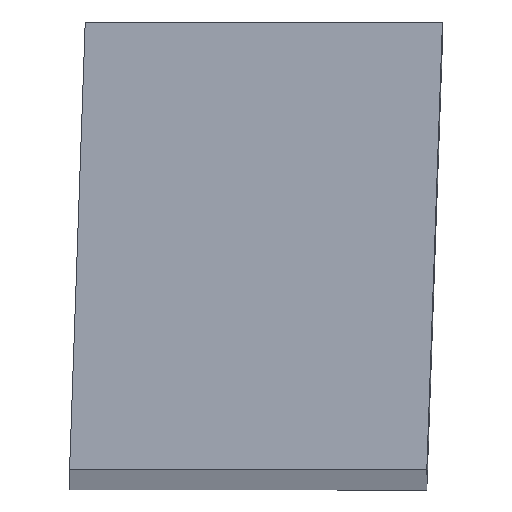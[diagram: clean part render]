
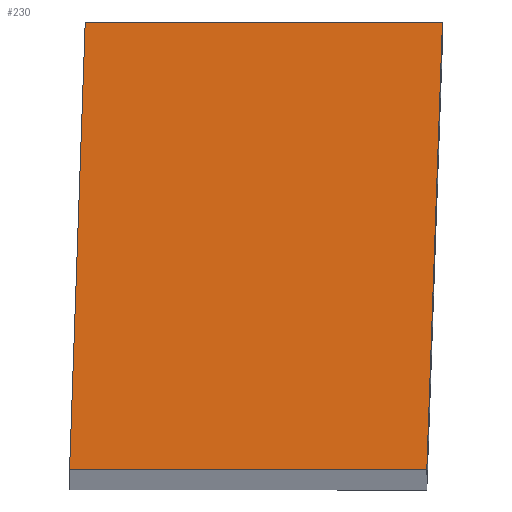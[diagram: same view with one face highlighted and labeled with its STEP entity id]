
A CAD part, top view. The second image highlights one B-rep face of the part: STEP entity #230.
In plain terms, the highlighted planar face has unit normal (0, 0.035, 0.999).
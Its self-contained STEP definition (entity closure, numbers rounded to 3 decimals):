
#24=PLANE('',#269);
#46=FACE_OUTER_BOUND('',#64,.T.);
#64=EDGE_LOOP('',(#209,#210,#211,#212));
#78=LINE('',#386,#98);
#80=LINE('',#390,#100);
#82=LINE('',#394,#102);
#84=LINE('',#397,#104);
#98=VECTOR('',#321,10.);
#100=VECTOR('',#325,10.);
#102=VECTOR('',#329,10.);
#104=VECTOR('',#333,10.);
#125=VERTEX_POINT('',#383);
#126=VERTEX_POINT('',#385);
#127=VERTEX_POINT('',#389);
#128=VERTEX_POINT('',#393);
#150=EDGE_CURVE('',#126,#125,#78,.T.);
#152=EDGE_CURVE('',#127,#126,#80,.T.);
#154=EDGE_CURVE('',#128,#127,#82,.T.);
#156=EDGE_CURVE('',#125,#128,#84,.T.);
#209=ORIENTED_EDGE('',*,*,#156,.T.);
#210=ORIENTED_EDGE('',*,*,#154,.T.);
#211=ORIENTED_EDGE('',*,*,#152,.T.);
#212=ORIENTED_EDGE('',*,*,#150,.T.);
#230=ADVANCED_FACE('',(#46),#24,.T.);
#269=AXIS2_PLACEMENT_3D('',#398,#334,#335);
#321=DIRECTION('',(0.035,0.999,-0.035));
#325=DIRECTION('',(1.,0.,0.));
#329=DIRECTION('',(-0.035,-0.999,0.035));
#333=DIRECTION('',(-1.,0.,0.));
#334=DIRECTION('center_axis',(0.,0.035,0.999));
#335=DIRECTION('ref_axis',(1.,0.,0.));
#383=CARTESIAN_POINT('',(-72.5,12.,157.601));
#385=CARTESIAN_POINT('',(-72.919,0.,158.021));
#386=CARTESIAN_POINT('',(-72.721,5.667,157.823));
#389=CARTESIAN_POINT('',(-82.5,0.,158.021));
#390=CARTESIAN_POINT('',(-82.5,0.,158.021));
#393=CARTESIAN_POINT('',(-82.081,12.,157.601));
#394=CARTESIAN_POINT('',(-82.087,11.823,157.608));
#397=CARTESIAN_POINT('',(-75.,12.,157.601));
#398=CARTESIAN_POINT('Origin',(-77.5,5.996,157.811));
